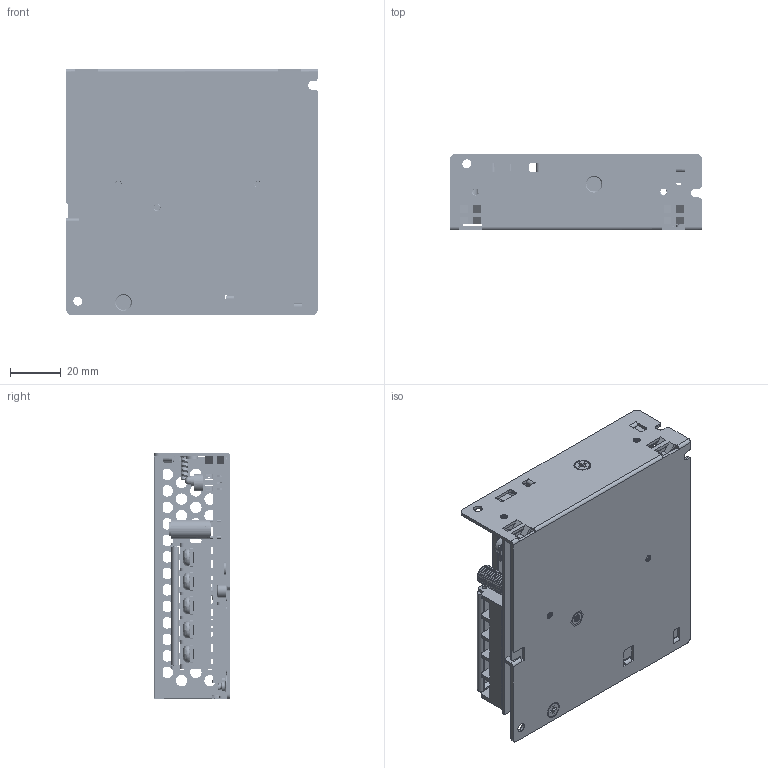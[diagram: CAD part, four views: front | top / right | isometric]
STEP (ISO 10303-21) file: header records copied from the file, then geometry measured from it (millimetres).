
FILE_DESCRIPTION (( 'STEP AP214' ), '1' );
FILE_NAME ('LCS75-C.STEP', '2020-12-24T10:36:56', ( '' ), ( '' ), 'SwSTEP 2.0', 'SolidWorks 2020', '' );
FILE_SCHEMA (( 'AUTOMOTIVE_DESIGN' ));
Length unit declared in the file: millimetre
Products named in the file (35): TH_5_1_1; OTHERS_ASM_2_ASM_1_ASM; M3X6_3_1__ASM_1_ASM_1_ASM; BOARD_2_1; DP_2_1_1; 95_5PIN_PZ_COVER_ASM_8_ASM; CHASSIS_51_2_1; SVR1_ASM_1_ASM_1_ASM; L71_ASM_1_ASM_1_ASM; LED1_ASM_2_ASM_1_ASM; M3X8_16_1_1; 11020133_LM75_M_L_-A_1_1; PCB_LCS75_ASM_2_ASM_1_ASM; PCB_ASM_1_ASM_1_ASM; DC49B-TERMINAL00_3_1_2; LED__1_1; 11030073_LM75_M_L_-A_ASM_1_ASM__ASM; LCS75-C; M40001_4_1_1; SCREW_CHASSIS_1_1; 95_5PIN_PZ_COVER_ASM; DC49H-HOUSING0001_12_1_1; CHASSIS_ASM_10_ASM_1_ASM_1_ASM; HDK_______1_1; M40001_4_1_1_2; INSULATOR_1_1; 14211201-B__ASM_1_ASM_1_ASM; LUOZHU_2_1_1; DC49H-COVER_4_1_2; SCREW_YT_1_1; 12050366_1_1; M3X8_ASM_4_ASM_1_ASM_1_ASM; CASE_ASM_1_ASM_1_ASM; M4-7-75SCREW_5_1_1; DC49HB-950_ASM_6_ASM_1_ASM_1_ASM
Assembly tree (50 placements, depth 6):
  LCS75-C
    CASE_ASM_1_ASM_1_ASM
      11030073_LM75_M_L_-A_ASM_1_ASM__ASM
        CHASSIS_ASM_10_ASM_1_ASM_1_ASM
          CHASSIS_51_2_1
          LUOZHU_2_1_1
      11020133_LM75_M_L_-A_1_1
    PCB_LCS75_ASM_2_ASM_1_ASM
      14211201-B__ASM_1_ASM_1_ASM
        PCB_ASM_1_ASM_1_ASM
          BOARD_2_1
          SVR1_ASM_1_ASM_1_ASM
            HDK_______1_1
          L71_ASM_1_ASM_1_ASM
            12050366_1_1
          LED1_ASM_2_ASM_1_ASM
            LED__1_1
      95_5PIN_PZ_COVER_ASM
        95_5PIN_PZ_COVER_ASM_8_ASM
          DC49HB-950_ASM_6_ASM_1_ASM_1_ASM
            DC49H-HOUSING0001_12_1_1
            M40001_4_1_1_2  x5
            M40001_4_1_1  x5
            DC49B-TERMINAL00_3_1_2  x5
            M4-7-75SCREW_5_1_1  x5
            DC49H-COVER_4_1_2
    OTHERS_ASM_2_ASM_1_ASM
      INSULATOR_1_1
      SCREW_YT_1_1
      M3X6_3_1__ASM_1_ASM_1_ASM
        M3X8_ASM_4_ASM_1_ASM_1_ASM
          M3X8_16_1_1
          DP_2_1_1
          TH_5_1_1
      SCREW_CHASSIS_1_1
Bounding box: 99 x 30 x 97 mm (x, y, z)
Volume: 38645.5 mm3; surface area: 96318.4 mm2
Topology: 28 solids, 46 shells, 3422 faces, 9873 edges, 6494 vertices
Faces by surface type: plane 1776, cylinder 1272, cone 142, torus 120, bspline 112
Entity records: 117246 total; most frequent: CARTESIAN_POINT 50768, ORIENTED_EDGE 14340, DIRECTION 11981, EDGE_CURVE 7193, VERTEX_POINT 4750, AXIS2_PLACEMENT_3D 4000, LINE 3981, VECTOR 3981
